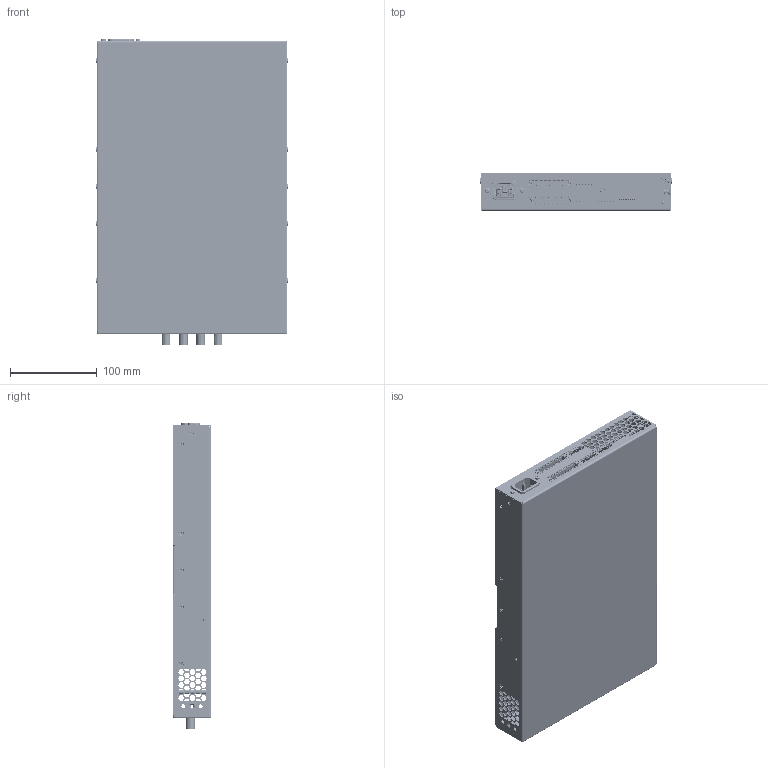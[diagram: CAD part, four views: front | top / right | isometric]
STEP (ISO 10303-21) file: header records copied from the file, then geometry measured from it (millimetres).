
FILE_DESCRIPTION (( 'STEP AP214' ), '1' );
FILE_NAME ('Blaze PowerZone 504 Amplifier.STEP', '2025-01-13T11:50:29', ( '' ), ( '' ), 'SwSTEP 2.0', 'SolidWorks 2024', '' );
FILE_SCHEMA (( 'AUTOMOTIVE_DESIGN' ));
Length unit declared in the file: millimetre
Products named in the file (2): Blaze PowerZone 504 Amplifier; for export_defeature^900-019-23
Assembly tree (1 placements, depth 2):
  Blaze PowerZone 504 Amplifier
    for export_defeature^900-019-23
Bounding box: 220.5 x 43.9 x 353.6 mm (x, y, z)
Surface area: 469755.3 mm2 (no closed solid volume)
Topology: 0 solids, 510 shells, 12466 faces, 32270 edges, 20377 vertices
Faces by surface type: plane 7030, cylinder 2830, bspline 1465, cone 446, sphere 387, torus 308
Entity records: 447386 total; most frequent: CARTESIAN_POINT 158563, ORIENTED_EDGE 61581, DIRECTION 53168, EDGE_CURVE 31767, VERTEX_POINT 20373, LINE 19630, VECTOR 19630, AXIS2_PLACEMENT_3D 16769
